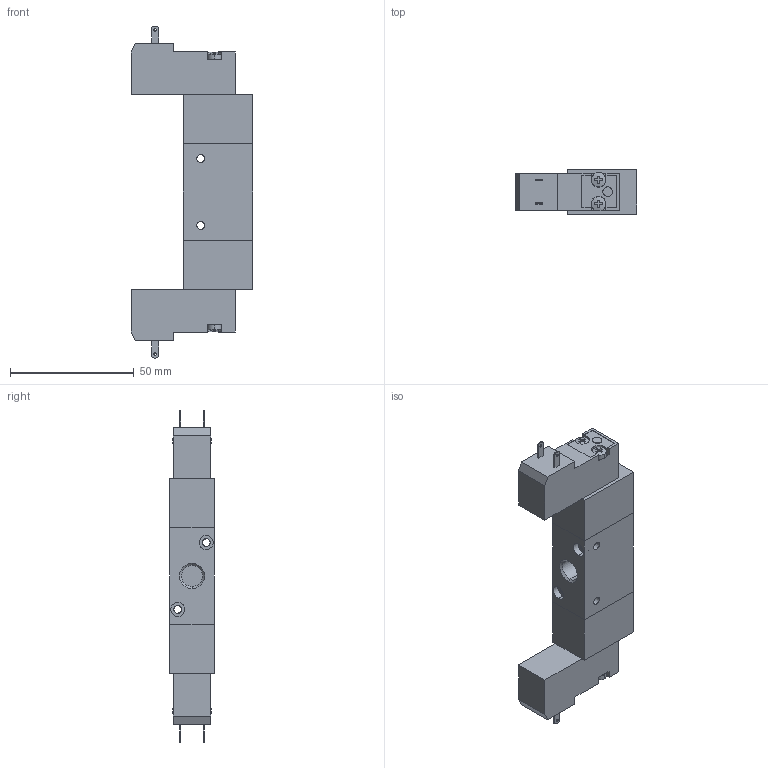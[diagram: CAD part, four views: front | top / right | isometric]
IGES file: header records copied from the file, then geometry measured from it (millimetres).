
Global section: file name: No Iges File Name specified; native system: AutoDesk Inventor R11.0; preprocessor: AutoDesk Inventor Iges Exporter R11.0; author: No Author specified; organization: No Organization specified; date: 20061201.120416; units: millimetre
Bounding box: 49 x 18 x 133.99 mm (x, y, z)
Volume: 60277.1 mm3; surface area: 18967.6 mm2
Topology: 5 solids, 5 shells, 303 faces, 756 edges, 466 vertices
Faces by surface type: plane 135, bspline 106, revolution 44, cylinder 16, sphere 2
